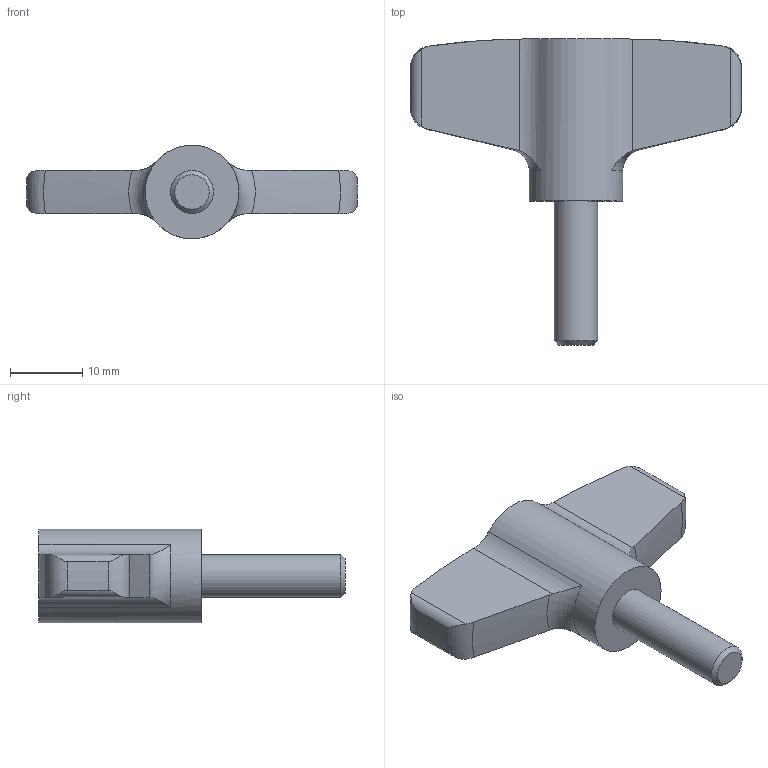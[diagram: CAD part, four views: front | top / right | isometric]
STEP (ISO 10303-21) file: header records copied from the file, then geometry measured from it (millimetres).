
FILE_DESCRIPTION( ( 'STEP AP203' ), '1' );
FILE_NAME( 'C:/Temp/Ganter_Step_05_03_2020/data/2_2/gn_835/Stainless Steel-Wing screw GN 835-46-M6-20-MT.stp', '2020-03-05T12:19:30', ( 'License CC BY-ND 4.0' ), ( 'CADENAS' ), ' ', 'PARTsolutions', ' ' );
FILE_SCHEMA( ( 'CONFIG_CONTROL_DESIGN' ) );
Length unit declared in the file: millimetre
Products named in the file (1): _Stainless Steel-Wing screw GN 835-46-M6-20-MT
Bounding box: 45.98 x 42.5 x 13 mm (x, y, z)
Volume: 6265.7 mm3; surface area: 2744.6 mm2
Topology: 1 solids, 1 shells, 30 faces, 76 edges, 49 vertices
Faces by surface type: cylinder 12, plane 7, torus 6, cone 3, bspline 2
Full cylindrical faces by diameter (mm): 6 x1, 13 x1
Entity records: 1162 total; most frequent: CARTESIAN_POINT 473, ORIENTED_EDGE 144, DIRECTION 114, EDGE_CURVE 72, AXIS2_PLACEMENT_3D 49, VERTEX_POINT 48, B_SPLINE_CURVE_WITH_KNOTS 36, EDGE_LOOP 34
